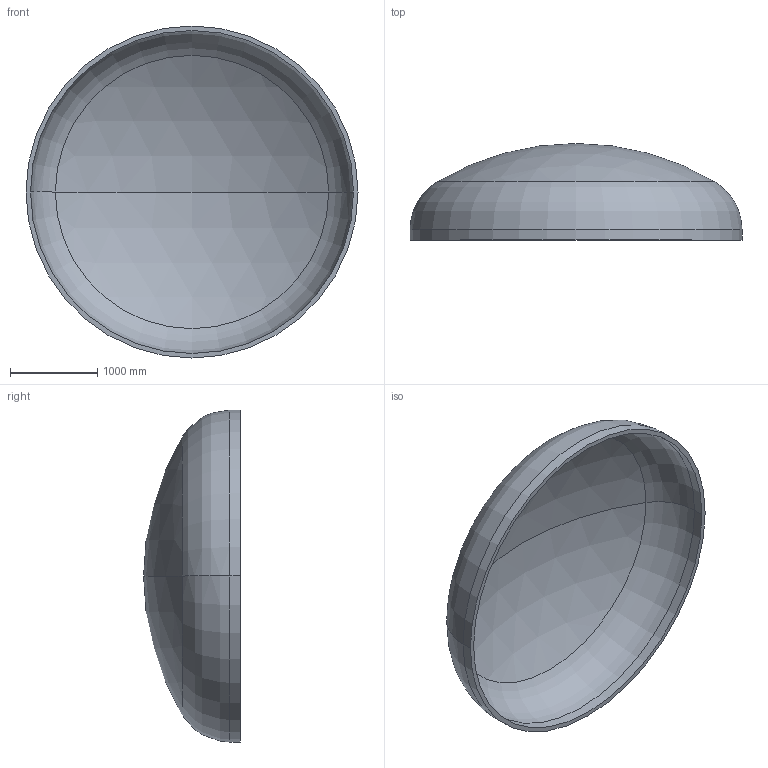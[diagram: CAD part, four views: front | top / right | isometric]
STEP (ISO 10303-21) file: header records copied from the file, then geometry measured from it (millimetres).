
FILE_DESCRIPTION (( 'STEP AP203' ), '1' );
FILE_NAME ('DIN 28013 Korbbogenform_-_Boden DIN 28013 - 3800 x 120 - I - s=52.step', '2016-07-01T21:30:28', ( '' ), ( '' ), 'SwSTEP 2.0', 'SolidWorks 2013', '' );
FILE_SCHEMA (( 'CONFIG_CONTROL_DESIGN' ));
Length unit declared in the file: millimetre
Products named in the file (1): DIN 28013 Korbbogenform_-_Boden DIN 28013 - 3800 x 120 - I - s=52
Bounding box: 3800 x 1106.8 x 3800 mm (x, y, z)
Volume: 875564531.2 mm3; surface area: 34293493.8 mm2
Topology: 1 solids, 1 shells, 13 faces, 24 edges, 14 vertices
Faces by surface type: torus 4, cylinder 4, sphere 4, plane 1
Entity records: 407 total; most frequent: DIRECTION 72, CARTESIAN_POINT 52, ORIENTED_EDGE 48, AXIS2_PLACEMENT_3D 34, EDGE_CURVE 24, CIRCLE 20, EDGE_LOOP 14, VERTEX_POINT 14
